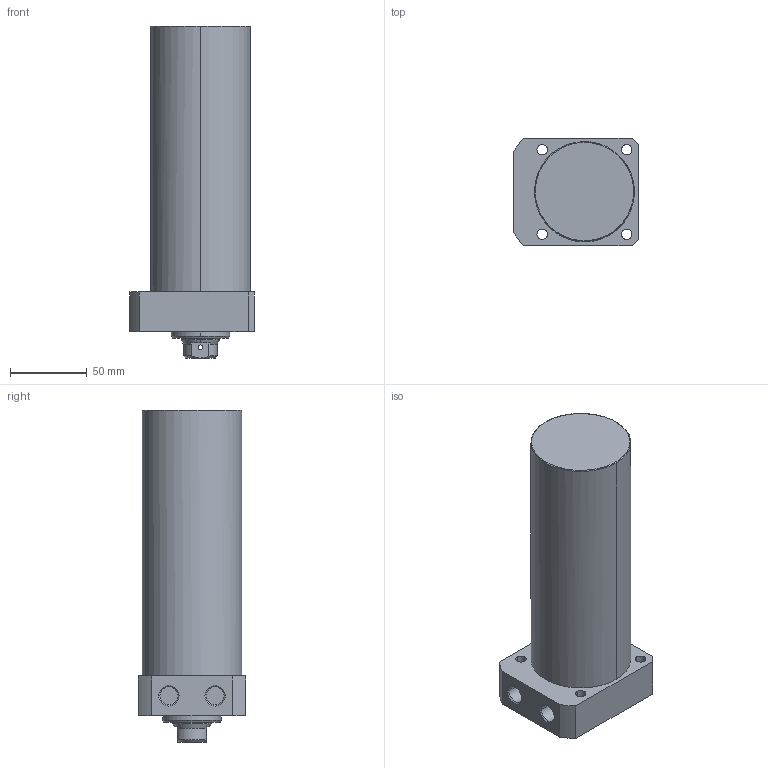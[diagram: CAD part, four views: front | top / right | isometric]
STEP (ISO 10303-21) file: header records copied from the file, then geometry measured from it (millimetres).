
FILE_DESCRIPTION((' '),'2;1');
FILE_NAME( 'TLLR-065CB-140.STEP.stp', '2025-10-24T16:34:58', (' '), ('--- Datakit www.datakit.com---'), ' Datakit CrossCadWare V2024.1 Dec 21 2023', 'Mastercam 2025', ' ');
FILE_SCHEMA(('AUTOMOTIVE_DESIGN { 1 0 10303 214 1 1 1 1 }'));
Length unit declared in the file: millimetre
Products named in the file (1): TLLR-065CB-140
Bounding box: 81 x 70 x 216 mm (x, y, z)
Volume: 717953.7 mm3; surface area: 59797.6 mm2
Topology: 1 solids, 1 shells, 67 faces, 197 edges, 136 vertices
Faces by surface type: cylinder 32, plane 19, cone 14, torus 2
Entity records: 3278 total; most frequent: CARTESIAN_POINT 1359, DIRECTION 426, ORIENTED_EDGE 390, EDGE_CURVE 195, AXIS2_PLACEMENT_3D 179, VERTEX_POINT 136, CIRCLE 111, EDGE_LOOP 85
